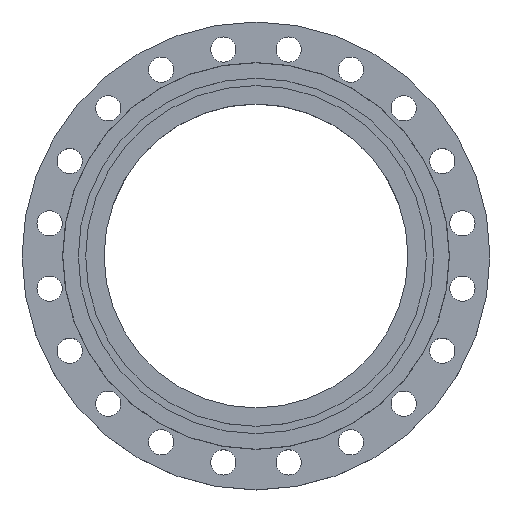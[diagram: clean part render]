
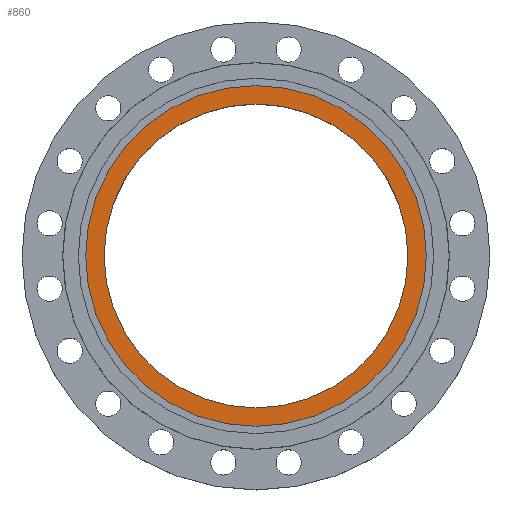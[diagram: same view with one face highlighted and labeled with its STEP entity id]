
A CAD part, top view. The second image highlights one B-rep face of the part: STEP entity #860.
In plain terms, the highlighted planar face has unit normal (0, 0, 1).
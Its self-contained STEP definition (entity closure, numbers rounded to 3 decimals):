
#57 = CIRCLE ( 'NONE', #58, 289. ) ;
#58 = AXIS2_PLACEMENT_3D ( 'NONE', #593, #591, #590 ) ;
#72 = CARTESIAN_POINT ( 'NONE',  ( 289., 0., 0. ) ) ;
#138 = CARTESIAN_POINT ( 'NONE',  ( 324., 0., 0. ) ) ;
#293 = EDGE_CURVE ( 'NONE', #1432, #1971, #1376, .T. ) ;
#294 = DIRECTION ( 'NONE',  ( 0., 0., -1. ) ) ;
#299 = AXIS2_PLACEMENT_3D ( 'NONE', #2037, #294, #1140 ) ;
#348 = CARTESIAN_POINT ( 'NONE',  ( -289., 0., 0. ) ) ;
#400 = DIRECTION ( 'NONE',  ( -1., 0., 0. ) ) ;
#575 = DIRECTION ( 'NONE',  ( 0., 0., -1. ) ) ;
#590 = DIRECTION ( 'NONE',  ( -1., 0., 0. ) ) ;
#591 = DIRECTION ( 'NONE',  ( 0., 0., -1. ) ) ;
#593 = CARTESIAN_POINT ( 'NONE',  ( 0., 0., 0. ) ) ;
#605 = DIRECTION ( 'NONE',  ( 1., 0., 0. ) ) ;
#606 = DIRECTION ( 'NONE',  ( 0., 0., 1. ) ) ;
#608 = CARTESIAN_POINT ( 'NONE',  ( 0., 0., 0. ) ) ;
#612 = PLANE ( 'NONE',  #1170 ) ;
#613 = FACE_OUTER_BOUND ( 'NONE', #1546, .T. ) ;
#615 = FACE_BOUND ( 'NONE', #1558, .T. ) ;
#860 = ADVANCED_FACE ( 'NONE', ( #615, #613 ), #612, .T. ) ;
#873 = CARTESIAN_POINT ( 'NONE',  ( 0., 0., 0. ) ) ;
#877 = DIRECTION ( 'NONE',  ( -1., 0., 0. ) ) ;
#878 = DIRECTION ( 'NONE',  ( 0., 0., -1. ) ) ;
#880 = CARTESIAN_POINT ( 'NONE',  ( 0., 0., 0. ) ) ;
#927 = EDGE_CURVE ( 'NONE', #1269, #1833, #57, .T. ) ;
#1090 = ORIENTED_EDGE ( 'NONE', *, *, #293, .F. ) ;
#1091 = ORIENTED_EDGE ( 'NONE', *, *, #1665, .F. ) ;
#1092 = ORIENTED_EDGE ( 'NONE', *, *, #2102, .T. ) ;
#1093 = ORIENTED_EDGE ( 'NONE', *, *, #927, .T. ) ;
#1140 = DIRECTION ( 'NONE',  ( -1., 0., 0. ) ) ;
#1170 = AXIS2_PLACEMENT_3D ( 'NONE', #608, #606, #605 ) ;
#1269 = VERTEX_POINT ( 'NONE', #348 ) ;
#1376 = CIRCLE ( 'NONE', #1380, 324. ) ;
#1380 = AXIS2_PLACEMENT_3D ( 'NONE', #880, #878, #877 ) ;
#1432 = VERTEX_POINT ( 'NONE', #138 ) ;
#1523 = CIRCLE ( 'NONE', #299, 289. ) ;
#1546 = EDGE_LOOP ( 'NONE', ( #1091, #1090 ) ) ;
#1558 = EDGE_LOOP ( 'NONE', ( #1093, #1092 ) ) ;
#1665 = EDGE_CURVE ( 'NONE', #1971, #1432, #1901, .T. ) ;
#1833 = VERTEX_POINT ( 'NONE', #72 ) ;
#1901 = CIRCLE ( 'NONE', #1906, 324. ) ;
#1906 = AXIS2_PLACEMENT_3D ( 'NONE', #873, #575, #400 ) ;
#1971 = VERTEX_POINT ( 'NONE', #2060 ) ;
#2037 = CARTESIAN_POINT ( 'NONE',  ( 0., 0., 0. ) ) ;
#2060 = CARTESIAN_POINT ( 'NONE',  ( -324., 0., 0. ) ) ;
#2102 = EDGE_CURVE ( 'NONE', #1833, #1269, #1523, .T. ) ;
